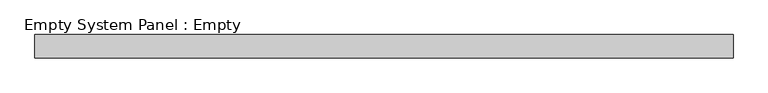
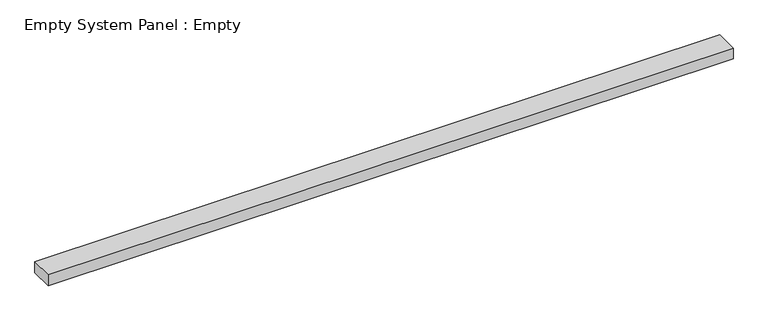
"""IFC4 building model written with IfcOpenShell, lengths in millimetres: plate geometry, Empty System Panel : Empty."""

from ifc_helpers import new_model, si_unit, origin, origin_with_axes, place, context, project, spatial, polyline, outline, extrude, source, transform, mapped, element, save


def empty_system_panel_empty_5b0c2a42(model_context):
    return source(origin(), model_context, "Body", "SweptSolid", [
        extrude(outline(polyline([(1500.0, -50.0), (-1500.0, -50.0), (-1500.0, 50.0), (1500.0, 50.0), (1500.0, -50.0)])), origin_with_axes(), (0.0, 0.0, 1.0), 50.0),
    ])


if __name__ == "__main__":
    model = new_model("IFC4")
    model_context = context("Model", 3, world=origin())
    ifc_project = project(units=[si_unit("LENGTHUNIT", "METRE", prefix="MILLI")], contexts=[model_context])
    site = spatial("IfcSite", under=ifc_project)
    building = spatial("IfcBuilding", under=site)
    placement = place(None, origin())
    empty_system_panel_empty_shape = empty_system_panel_empty_5b0c2a42(model_context)
    element("IfcPlate", 1, ObjectType="Empty System Panel : Empty", at=placement, inside=building, context=model_context, shape_type="MappedRepresentation", body=[
        mapped(empty_system_panel_empty_shape, transform((0.0, 0.0, 0.0), x_axis=(1.0, 0.0, 0.0), y_axis=(0.0, 1.0, 0.0), z_axis=(0.0, 0.0, 1.0))),
    ])
    save(model, "model.ifc")
